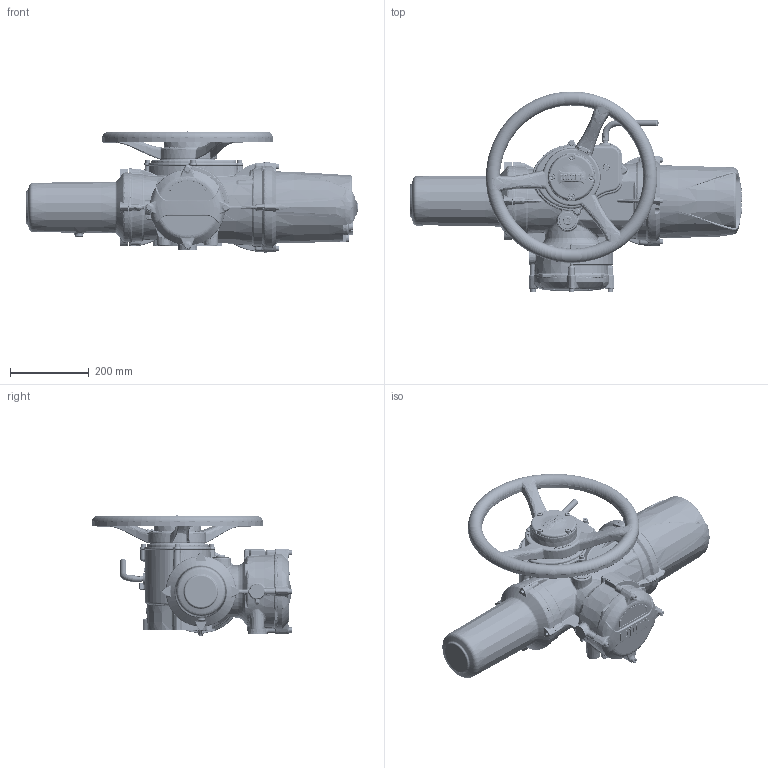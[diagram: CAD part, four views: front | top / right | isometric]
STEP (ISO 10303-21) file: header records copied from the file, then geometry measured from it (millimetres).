
FILE_DESCRIPTION(/* description */ ('Unknown'),/* implementation_level */ '2;1');
FILE_NAME(/* name */ 'IQ3H-2SP-THW-NOBASE-1',/* time_stamp */ '2021-03-29T11:43:15+01:00',/* author */ ('Unknown'),/* organization */ ('Unknown'),/* preprocessor_version */ 'ST-DEVELOPER v16.7',/* originating_system */ 'Solid Edge',/* authorisation */ 'Unknown');
FILE_SCHEMA (('AUTOMOTIVE_DESIGN { 1 0 10303 214 3 1 1 }','AUTOMOTIVE_DESIGN {1 0 10303 214 3 1 1}'));
Length unit declared in the file: millimetre
Products named in the file (1): IQ3H-2SP-THW-NOBASE-1
Bounding box: 843.5 x 510.12 x 307.51 mm (x, y, z)
Volume: 13515 mm3; surface area: 1241744.3 mm2
Topology: 37 solids, 38 shells, 5835 faces, 14703 edges, 8803 vertices
Faces by surface type: bspline 2313, plane 1589, cylinder 697, torus 569, cone 495, sphere 172
Full cylindrical faces by diameter (mm): 1.152 x1, 3 x8, 3.54 x2, 4 x2, 6 x3, 6.45 x4, 6.47 x4, 6.5 x1, 7 x4, 7.6 x4, 8 x16, 8.1 x1, 8.2 x1, 8.5 x4, 10 x1, 11.78 x1, 13 x12, 13.25 x4, 15.5 x1, 15.84 x1, 16 x4, 24.78 x1, 120.155 x1, 126.9 x1, 132.5 x1, 135.75 x2, 136.75 x1, 139.927 x1
Entity records: 261301 total; most frequent: CARTESIAN_POINT 102309, ORIENTED_EDGE 27946, DIRECTION 19944, EDGE_CURVE 13973, VERTEX_POINT 8602, AXIS2_PLACEMENT_3D 8270, FACE_BOUND 6323, EDGE_LOOP 6306
